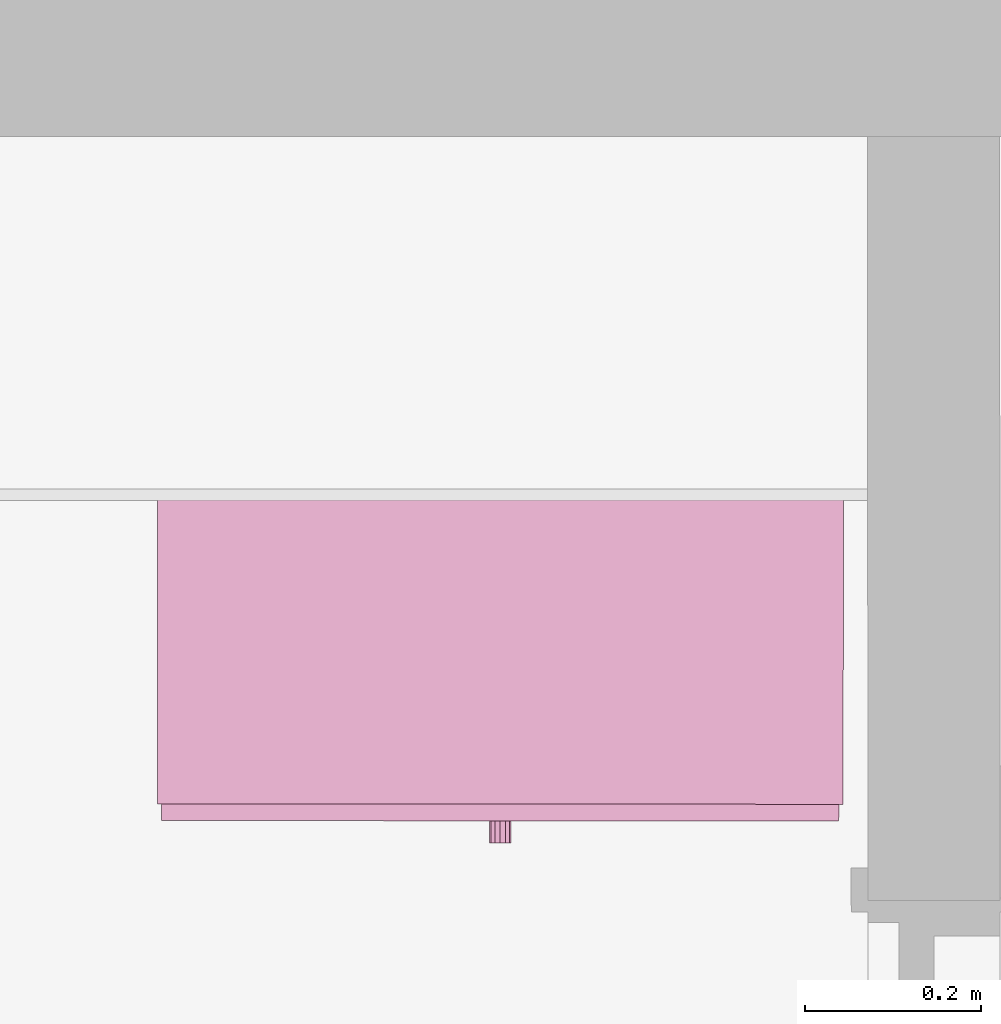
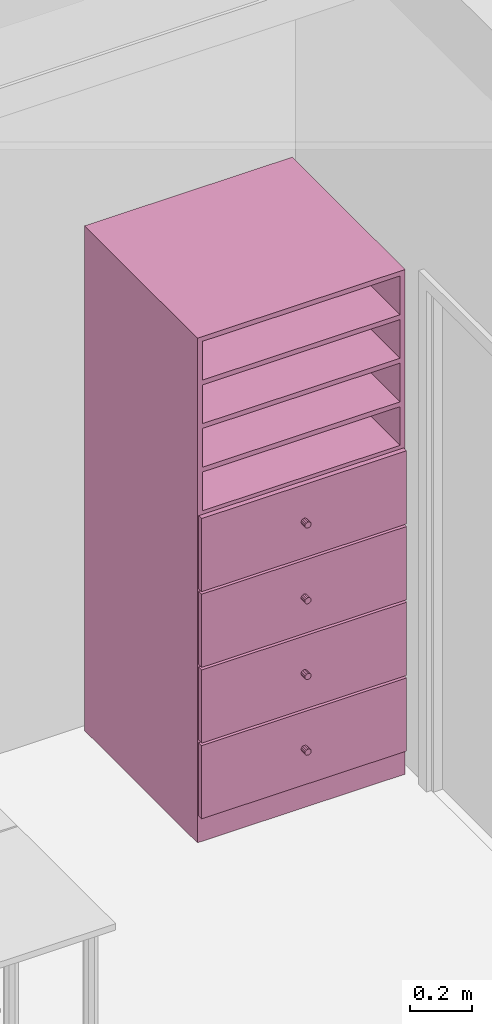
# One storey, part 152 of 194: 1 furnishing.
"""IFC2X3 building model written with IfcOpenShell, lengths in millimetres."""

from ifc_helpers import new_model, entity, si_unit, converted_unit, derived_unit, money_unit, direction, frame, origin_with_axes, place, context, subcontext, project, spatial, faceted_brep, type_object, element, save


model = new_model("IFC2X3")

# Units and contexts
model_context = context("Model", 3, precision=1e-05, world=origin_with_axes(), true_north=direction((0.0, 1.0)))
body_context = subcontext(model_context, "Body", "Model", "MODEL_VIEW")
ifc_project = project(units=[si_unit("LENGTHUNIT", "METRE", prefix="MILLI"), si_unit("AREAUNIT", "SQUARE_METRE"), si_unit("VOLUMEUNIT", "CUBIC_METRE"), converted_unit("PLANEANGLEUNIT", "DEGREE", entity("IfcPlaneAngleMeasure", 0.0174532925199), si_unit("PLANEANGLEUNIT", "RADIAN"), dimensions=[0, 0, 0, 0, 0, 0, 0]), si_unit("SOLIDANGLEUNIT", "STERADIAN"), money_unit("EUR"), converted_unit("TIMEUNIT", "Year", entity("IfcTimeMeasure", 31556926.0), si_unit("TIMEUNIT", "SECOND"), dimensions=[0, 0, 1, 0, 0, 0, 0]), si_unit("MASSUNIT", "GRAM", prefix="KILO"), si_unit("THERMODYNAMICTEMPERATUREUNIT", "DEGREE_CELSIUS"), si_unit("LUMINOUSINTENSITYUNIT", "LUMEN"), si_unit("ENERGYUNIT", "JOULE", prefix="MEGA"), derived_unit("THERMALCONDUCTANCEUNIT", [(si_unit("POWERUNIT", "WATT"), 1), (si_unit("LENGTHUNIT", "METRE"), -1), (si_unit("THERMODYNAMICTEMPERATUREUNIT", "KELVIN"), -1)]), derived_unit("SPECIFICHEATCAPACITYUNIT", [(si_unit("ENERGYUNIT", "JOULE"), 1), (si_unit("MASSUNIT", "GRAM", prefix="KILO"), -1), (si_unit("THERMODYNAMICTEMPERATUREUNIT", "KELVIN"), -1)]), derived_unit("MASSDENSITYUNIT", [(si_unit("MASSUNIT", "GRAM", prefix="KILO"), 1), (si_unit("VOLUMEUNIT", "CUBIC_METRE"), -1)])], contexts=[model_context])

# Site, building, storey
site_placement = place(None, origin_with_axes())
site = spatial("IfcSite", under=ifc_project, at=site_placement, Name="Site", CompositionType="ELEMENT")
building_placement = place(site_placement, origin_with_axes())
building = spatial("IfcBuilding", under=site, at=building_placement, Name="Building", CompositionType="ELEMENT")
storey_placement = place(building_placement, frame((0.0, 0.0, 3000.0), z_axis=(0.0, 0.0, 1.0), x_axis=(1.0, 0.0, 0.0)))
storey = spatial("IfcBuildingStorey", under=building, at=storey_placement, Name="2 KORRUS", CompositionType="ELEMENT", Elevation=3000.0)

# Furnishing
furnishing_element_type = type_object("IfcFurnishingElementType", Name="Model Element 164")
furnishing_placement = place(storey_placement, frame((20926.4185211, 37817.6823492, 0.0), z_axis=(0.0, 0.0, 1.0), x_axis=(0.999999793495, -0.000642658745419, 0.0)))
element("IfcFurnishingElement", 1, at=furnishing_placement, inside=storey, type_object=furnishing_element_type, Name="FU - 001", context=body_context, shape_type="Brep", body=[
    faceted_brep([(778.540192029, 19.0, 0.0), (0.0, 19.0, 0.0), (0.0, 753.071131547, 0.0), (778.540192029, 753.071131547, 0.0), (778.540192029, 19.0, 100.0), (0.0, 19.0, 100.0), (0.0, 753.071131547, 100.0), (778.540192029, 753.071131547, 100.0)], [[[0, 1, 2, 3]], [[1, 0, 4, 5]], [[2, 1, 5, 6]], [[3, 2, 6, 7]], [[0, 3, 7, 4]], [[5, 4, 7, 6]]]),
    faceted_brep([(19.0, 753.071131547, 119.0), (19.0, 734.071131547, 119.0), (19.0, 734.071131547, 1981.0), (19.0, 753.071131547, 1981.0), (759.540192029, 753.071131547, 119.0), (759.540192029, 734.071131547, 119.0), (759.540192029, 734.071131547, 1981.0), (759.540192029, 753.071131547, 1981.0)], [[[0, 1, 2, 3]], [[0, 4, 5, 1]], [[1, 5, 6, 2]], [[3, 2, 6, 7]], [[4, 0, 3, 7]], [[5, 4, 7, 6]]]),
    faceted_brep([(778.540192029, 19.0, 100.0), (759.540192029, 19.0, 100.0), (759.540192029, 753.071131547, 100.0), (778.540192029, 753.071131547, 100.0), (778.540192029, 19.0, 2000.0), (759.540192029, 19.0, 2000.0), (759.540192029, 753.071131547, 2000.0), (778.540192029, 753.071131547, 2000.0)], [[[0, 1, 2, 3]], [[1, 0, 4, 5]], [[2, 1, 5, 6]], [[3, 2, 6, 7]], [[0, 3, 7, 4]], [[5, 4, 7, 6]]]),
    faceted_brep([(19.0, 19.0, 100.0), (0.0, 19.0, 100.0), (0.0, 753.071131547, 100.0), (19.0, 753.071131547, 100.0), (19.0, 19.0, 2000.0), (0.0, 19.0, 2000.0), (0.0, 753.071131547, 2000.0), (19.0, 753.071131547, 2000.0)], [[[0, 1, 2, 3]], [[1, 0, 4, 5]], [[2, 1, 5, 6]], [[3, 2, 6, 7]], [[0, 3, 7, 4]], [[5, 4, 7, 6]]]),
    faceted_brep([(759.540192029, 19.0, 100.0), (19.0, 19.0, 100.0), (19.0, 753.071131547, 100.0), (759.540192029, 753.071131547, 100.0), (759.540192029, 19.0, 119.0), (19.0, 19.0, 119.0), (19.0, 753.071131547, 119.0), (759.540192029, 753.071131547, 119.0)], [[[0, 1, 2, 3]], [[1, 0, 4, 5]], [[2, 1, 5, 6]], [[3, 2, 6, 7]], [[0, 3, 7, 4]], [[5, 4, 7, 6]]]),
    faceted_brep([(759.540192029, 19.0, 1981.0), (19.0, 19.0, 1981.0), (19.0, 753.071131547, 1981.0), (759.540192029, 753.071131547, 1981.0), (759.540192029, 19.0, 2000.0), (19.0, 19.0, 2000.0), (19.0, 753.071131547, 2000.0), (759.540192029, 753.071131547, 2000.0)], [[[0, 1, 2, 3]], [[1, 0, 4, 5]], [[2, 1, 5, 6]], [[3, 2, 6, 7]], [[0, 3, 7, 4]], [[5, 4, 7, 6]]]),
    faceted_brep([(5.0, 19.0, 105.0), (773.540192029, 19.0, 105.0), (773.540192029, 0.0, 105.0), (5.0, 0.0, 105.0), (5.0, 19.0, 395.0), (773.540192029, 19.0, 395.0), (773.540192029, 0.0, 395.0), (5.0, 0.0, 395.0)], [[[0, 1, 2, 3]], [[0, 4, 5, 1]], [[1, 5, 6, 2]], [[3, 2, 6, 7]], [[4, 0, 3, 7]], [[5, 4, 7, 6]]]),
    faceted_brep([(399.66240086, 0.0, 244.0), (395.270096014, 0.0, 239.607695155), (389.270096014, 0.0, 238.0), (383.270096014, 0.0, 239.607695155), (378.877791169, 0.0, 244.0), (377.270096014, 0.0, 250.0), (378.877791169, 0.0, 256.0), (383.270096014, 0.0, 260.392304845), (389.270096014, 0.0, 262.0), (395.270096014, 0.0, 260.392304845), (399.66240086, 0.0, 256.0), (401.270096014, 0.0, 250.0), (399.66240086, -25.0, 244.0), (395.270096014, -25.0, 239.607695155), (389.270096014, -25.0, 238.0), (383.270096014, -25.0, 239.607695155), (378.877791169, -25.0, 244.0), (377.270096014, -25.0, 250.0), (378.877791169, -25.0, 256.0), (383.270096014, -25.0, 260.392304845), (389.270096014, -25.0, 262.0), (395.270096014, -25.0, 260.392304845), (399.66240086, -25.0, 256.0), (401.270096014, -25.0, 250.0)], [[[0, 1, 2, 3, 4, 5, 6, 7, 8, 9, 10, 11]], [[1, 0, 12, 13]], [[2, 1, 13, 14]], [[3, 2, 14, 15]], [[4, 3, 15, 16]], [[5, 4, 16, 17]], [[6, 5, 17, 18]], [[7, 6, 18, 19]], [[8, 7, 19, 20]], [[9, 8, 20, 21]], [[10, 9, 21, 22]], [[11, 10, 22, 23]], [[0, 11, 23, 12]], [[12, 23, 22, 21, 20, 19, 18, 17, 16, 15, 14, 13]]]),
    faceted_brep([(5.0, 19.0, 405.0), (773.540192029, 19.0, 405.0), (773.540192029, 0.0, 405.0), (5.0, 0.0, 405.0), (5.0, 19.0, 695.0), (773.540192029, 19.0, 695.0), (773.540192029, 0.0, 695.0), (5.0, 0.0, 695.0)], [[[0, 1, 2, 3]], [[0, 4, 5, 1]], [[1, 5, 6, 2]], [[3, 2, 6, 7]], [[4, 0, 3, 7]], [[5, 4, 7, 6]]]),
    faceted_brep([(399.66240086, 0.0, 544.0), (395.270096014, 0.0, 539.607695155), (389.270096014, 0.0, 538.0), (383.270096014, 0.0, 539.607695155), (378.877791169, 0.0, 544.0), (377.270096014, 0.0, 550.0), (378.877791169, 0.0, 556.0), (383.270096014, 0.0, 560.392304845), (389.270096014, 0.0, 562.0), (395.270096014, 0.0, 560.392304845), (399.66240086, 0.0, 556.0), (401.270096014, 0.0, 550.0), (399.66240086, -25.0, 544.0), (395.270096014, -25.0, 539.607695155), (389.270096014, -25.0, 538.0), (383.270096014, -25.0, 539.607695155), (378.877791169, -25.0, 544.0), (377.270096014, -25.0, 550.0), (378.877791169, -25.0, 556.0), (383.270096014, -25.0, 560.392304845), (389.270096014, -25.0, 562.0), (395.270096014, -25.0, 560.392304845), (399.66240086, -25.0, 556.0), (401.270096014, -25.0, 550.0)], [[[0, 1, 2, 3, 4, 5, 6, 7, 8, 9, 10, 11]], [[1, 0, 12, 13]], [[2, 1, 13, 14]], [[3, 2, 14, 15]], [[4, 3, 15, 16]], [[5, 4, 16, 17]], [[6, 5, 17, 18]], [[7, 6, 18, 19]], [[8, 7, 19, 20]], [[9, 8, 20, 21]], [[10, 9, 21, 22]], [[11, 10, 22, 23]], [[0, 11, 23, 12]], [[12, 23, 22, 21, 20, 19, 18, 17, 16, 15, 14, 13]]]),
    faceted_brep([(5.0, 19.0, 705.0), (773.540192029, 19.0, 705.0), (773.540192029, 0.0, 705.0), (5.0, 0.0, 705.0), (5.0, 19.0, 995.0), (773.540192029, 19.0, 995.0), (773.540192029, 0.0, 995.0), (5.0, 0.0, 995.0)], [[[0, 1, 2, 3]], [[0, 4, 5, 1]], [[1, 5, 6, 2]], [[3, 2, 6, 7]], [[4, 0, 3, 7]], [[5, 4, 7, 6]]]),
    faceted_brep([(399.66240086, 0.0, 844.0), (395.270096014, 0.0, 839.607695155), (389.270096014, 0.0, 838.0), (383.270096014, 0.0, 839.607695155), (378.877791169, 0.0, 844.0), (377.270096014, 0.0, 850.0), (378.877791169, 0.0, 856.0), (383.270096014, 0.0, 860.392304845), (389.270096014, 0.0, 862.0), (395.270096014, 0.0, 860.392304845), (399.66240086, 0.0, 856.0), (401.270096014, 0.0, 850.0), (399.66240086, -25.0, 844.0), (395.270096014, -25.0, 839.607695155), (389.270096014, -25.0, 838.0), (383.270096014, -25.0, 839.607695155), (378.877791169, -25.0, 844.0), (377.270096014, -25.0, 850.0), (378.877791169, -25.0, 856.0), (383.270096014, -25.0, 860.392304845), (389.270096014, -25.0, 862.0), (395.270096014, -25.0, 860.392304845), (399.66240086, -25.0, 856.0), (401.270096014, -25.0, 850.0)], [[[0, 1, 2, 3, 4, 5, 6, 7, 8, 9, 10, 11]], [[1, 0, 12, 13]], [[2, 1, 13, 14]], [[3, 2, 14, 15]], [[4, 3, 15, 16]], [[5, 4, 16, 17]], [[6, 5, 17, 18]], [[7, 6, 18, 19]], [[8, 7, 19, 20]], [[9, 8, 20, 21]], [[10, 9, 21, 22]], [[11, 10, 22, 23]], [[0, 11, 23, 12]], [[12, 23, 22, 21, 20, 19, 18, 17, 16, 15, 14, 13]]]),
    faceted_brep([(5.0, 19.0, 1005.0), (773.540192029, 19.0, 1005.0), (773.540192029, 0.0, 1005.0), (5.0, 0.0, 1005.0), (5.0, 19.0, 1295.0), (773.540192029, 19.0, 1295.0), (773.540192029, 0.0, 1295.0), (5.0, 0.0, 1295.0)], [[[0, 1, 2, 3]], [[0, 4, 5, 1]], [[1, 5, 6, 2]], [[3, 2, 6, 7]], [[4, 0, 3, 7]], [[5, 4, 7, 6]]]),
    faceted_brep([(399.66240086, 0.0, 1144.0), (395.270096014, 0.0, 1139.60769515), (389.270096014, 0.0, 1138.0), (383.270096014, 0.0, 1139.60769515), (378.877791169, 0.0, 1144.0), (377.270096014, 0.0, 1150.0), (378.877791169, 0.0, 1156.0), (383.270096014, 0.0, 1160.39230485), (389.270096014, 0.0, 1162.0), (395.270096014, 0.0, 1160.39230485), (399.66240086, 0.0, 1156.0), (401.270096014, 0.0, 1150.0), (399.66240086, -25.0, 1144.0), (395.270096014, -25.0, 1139.60769515), (389.270096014, -25.0, 1138.0), (383.270096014, -25.0, 1139.60769515), (378.877791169, -25.0, 1144.0), (377.270096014, -25.0, 1150.0), (378.877791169, -25.0, 1156.0), (383.270096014, -25.0, 1160.39230485), (389.270096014, -25.0, 1162.0), (395.270096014, -25.0, 1160.39230485), (399.66240086, -25.0, 1156.0), (401.270096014, -25.0, 1150.0)], [[[0, 1, 2, 3, 4, 5, 6, 7, 8, 9, 10, 11]], [[1, 0, 12, 13]], [[2, 1, 13, 14]], [[3, 2, 14, 15]], [[4, 3, 15, 16]], [[5, 4, 16, 17]], [[6, 5, 17, 18]], [[7, 6, 18, 19]], [[8, 7, 19, 20]], [[9, 8, 20, 21]], [[10, 9, 21, 22]], [[11, 10, 22, 23]], [[0, 11, 23, 12]], [[12, 23, 22, 21, 20, 19, 18, 17, 16, 15, 14, 13]]]),
    faceted_brep([(19.0, 19.0, 390.5), (759.540192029, 19.0, 390.5), (759.540192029, 19.0, 409.5), (19.0, 19.0, 409.5), (19.0, 734.071131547, 390.5), (759.540192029, 734.071131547, 390.5), (759.540192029, 734.071131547, 409.5), (19.0, 734.071131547, 409.5)], [[[0, 1, 2, 3]], [[0, 4, 5, 1]], [[1, 5, 6, 2]], [[3, 2, 6, 7]], [[4, 0, 3, 7]], [[5, 4, 7, 6]]]),
    faceted_brep([(19.0, 19.0, 690.5), (759.540192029, 19.0, 690.5), (759.540192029, 19.0, 709.5), (19.0, 19.0, 709.5), (19.0, 734.071131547, 690.5), (759.540192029, 734.071131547, 690.5), (759.540192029, 734.071131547, 709.5), (19.0, 734.071131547, 709.5)], [[[0, 1, 2, 3]], [[0, 4, 5, 1]], [[1, 5, 6, 2]], [[3, 2, 6, 7]], [[4, 0, 3, 7]], [[5, 4, 7, 6]]]),
    faceted_brep([(19.0, 19.0, 990.5), (759.540192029, 19.0, 990.5), (759.540192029, 19.0, 1009.5), (19.0, 19.0, 1009.5), (19.0, 734.071131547, 990.5), (759.540192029, 734.071131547, 990.5), (759.540192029, 734.071131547, 1009.5), (19.0, 734.071131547, 1009.5)], [[[0, 1, 2, 3]], [[0, 4, 5, 1]], [[1, 5, 6, 2]], [[3, 2, 6, 7]], [[4, 0, 3, 7]], [[5, 4, 7, 6]]]),
    faceted_brep([(19.0, 19.0, 1290.5), (759.540192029, 19.0, 1290.5), (759.540192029, 19.0, 1309.5), (19.0, 19.0, 1309.5), (19.0, 734.071131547, 1290.5), (759.540192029, 734.071131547, 1290.5), (759.540192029, 734.071131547, 1309.5), (19.0, 734.071131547, 1309.5)], [[[0, 1, 2, 3]], [[0, 4, 5, 1]], [[1, 5, 6, 2]], [[3, 2, 6, 7]], [[4, 0, 3, 7]], [[5, 4, 7, 6]]]),
    faceted_brep([(759.540192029, 19.0, 1463.125), (19.0, 19.0, 1463.125), (19.0, 734.071131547, 1463.125), (759.540192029, 734.071131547, 1463.125), (759.540192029, 19.0, 1482.125), (19.0, 19.0, 1482.125), (19.0, 734.071131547, 1482.125), (759.540192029, 734.071131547, 1482.125)], [[[0, 1, 2, 3]], [[1, 0, 4, 5]], [[2, 1, 5, 6]], [[3, 2, 6, 7]], [[0, 3, 7, 4]], [[5, 4, 7, 6]]]),
    faceted_brep([(759.540192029, 19.0, 1635.75), (19.0, 19.0, 1635.75), (19.0, 734.071131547, 1635.75), (759.540192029, 734.071131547, 1635.75), (759.540192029, 19.0, 1654.75), (19.0, 19.0, 1654.75), (19.0, 734.071131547, 1654.75), (759.540192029, 734.071131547, 1654.75)], [[[0, 1, 2, 3]], [[1, 0, 4, 5]], [[2, 1, 5, 6]], [[3, 2, 6, 7]], [[0, 3, 7, 4]], [[5, 4, 7, 6]]]),
    faceted_brep([(759.540192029, 19.0, 1808.375), (19.0, 19.0, 1808.375), (19.0, 734.071131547, 1808.375), (759.540192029, 734.071131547, 1808.375), (759.540192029, 19.0, 1827.375), (19.0, 19.0, 1827.375), (19.0, 734.071131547, 1827.375), (759.540192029, 734.071131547, 1827.375)], [[[0, 1, 2, 3]], [[1, 0, 4, 5]], [[2, 1, 5, 6]], [[3, 2, 6, 7]], [[0, 3, 7, 4]], [[5, 4, 7, 6]]]),
])

save(model, "model.ifc")
